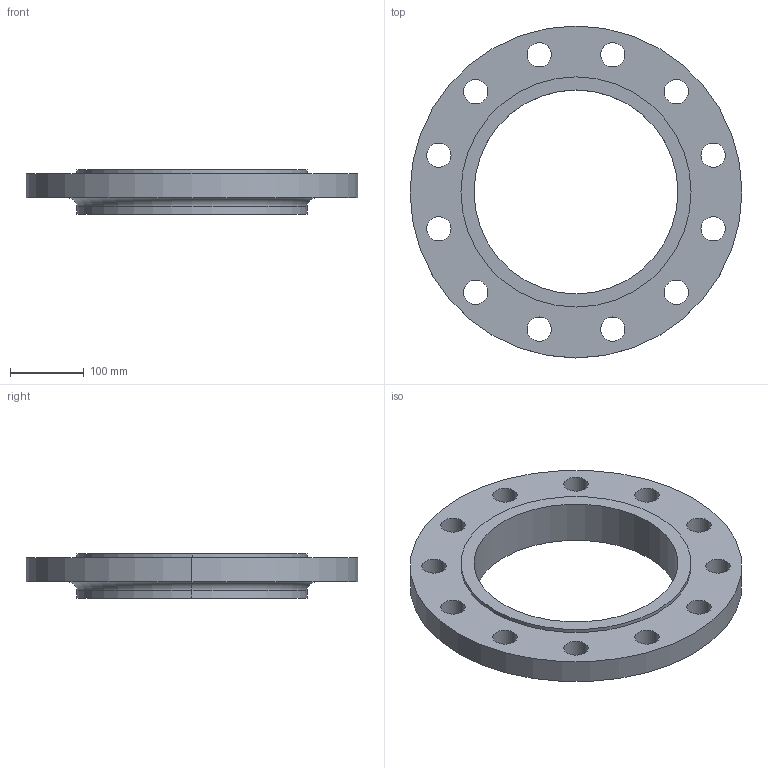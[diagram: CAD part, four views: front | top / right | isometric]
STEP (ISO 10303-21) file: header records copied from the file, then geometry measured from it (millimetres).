
FILE_DESCRIPTION (( 'STEP AP214' ), '1' );
FILE_NAME ('PN40 DN250 Type 12 - Type E Face.STEP', '2019-01-05T16:05:18', ( '' ), ( '' ), 'SwSTEP 2.0', 'SolidWorks 2019', '' );
FILE_SCHEMA (( 'AUTOMOTIVE_DESIGN' ));
Length unit declared in the file: millimetre
Products named in the file (1): PN40 DN250 Type 12 - Type E Face
Bounding box: 450 x 450 x 60 mm (x, y, z)
Volume: 3402060.7 mm3; surface area: 338774.7 mm2
Topology: 1 solids, 1 shells, 38 faces, 100 edges, 66 vertices
Faces by surface type: cylinder 32, plane 4, torus 2
Entity records: 1302 total; most frequent: DIRECTION 246, CARTESIAN_POINT 205, ORIENTED_EDGE 200, AXIS2_PLACEMENT_3D 107, EDGE_CURVE 100, CIRCLE 68, EDGE_LOOP 66, VERTEX_POINT 66
